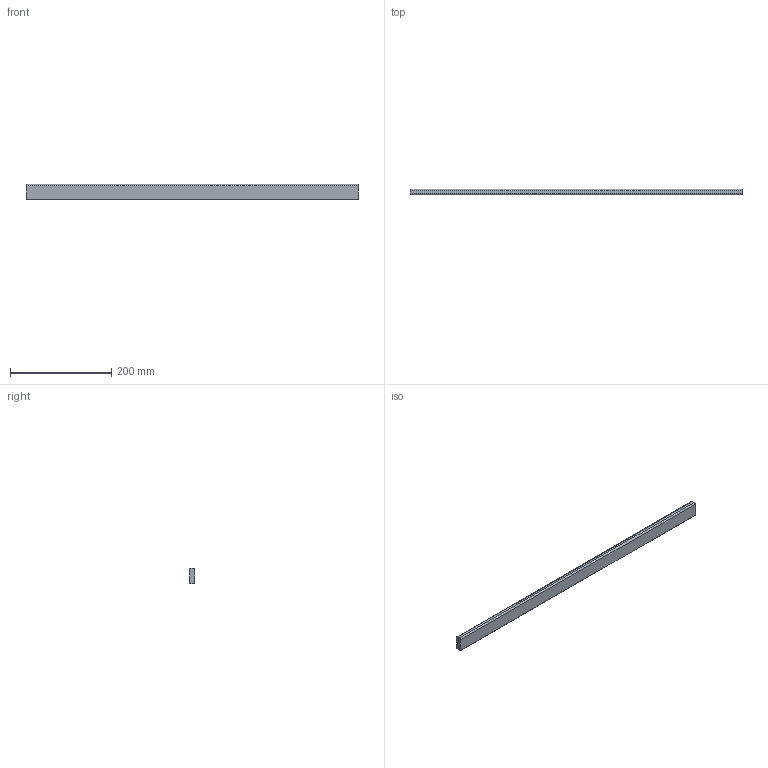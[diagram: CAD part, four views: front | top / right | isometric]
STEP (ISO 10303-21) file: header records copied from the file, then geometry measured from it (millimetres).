
FILE_DESCRIPTION (( 'STEP AP214' ), '1' );
FILE_NAME ('_Querreling_KAB-750_KS-19.step', '2010-08-26T14:58:37', ( 'grass' ), ( '' ), 'SwSTEP 2.0', 'SolidWorks 2009', '' );
FILE_SCHEMA (( 'AUTOMOTIVE_DESIGN' ));
Length unit declared in the file: millimetre
Products named in the file (1): _Querreling_KAB-750_KS-19
Bounding box: 656.5 x 10.5 x 30 mm (x, y, z)
Volume: 203979.8 mm3; surface area: 51543.7 mm2
Topology: 1 solids, 1 shells, 10 faces, 24 edges, 16 vertices
Faces by surface type: plane 6, cylinder 4
Entity records: 330 total; most frequent: DIRECTION 54, CARTESIAN_POINT 51, ORIENTED_EDGE 48, EDGE_CURVE 24, AXIS2_PLACEMENT_3D 19, LINE 16, VECTOR 16, VERTEX_POINT 16
